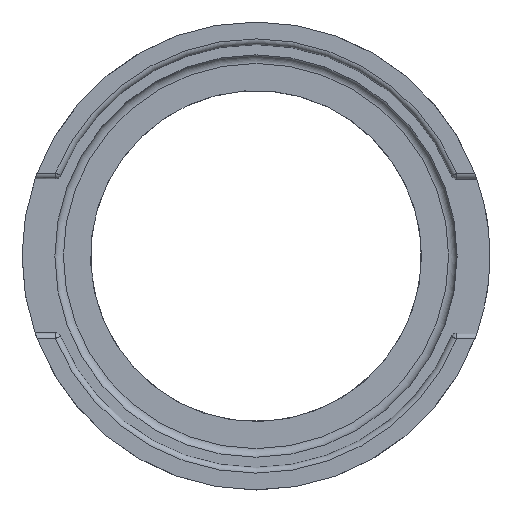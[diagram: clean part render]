
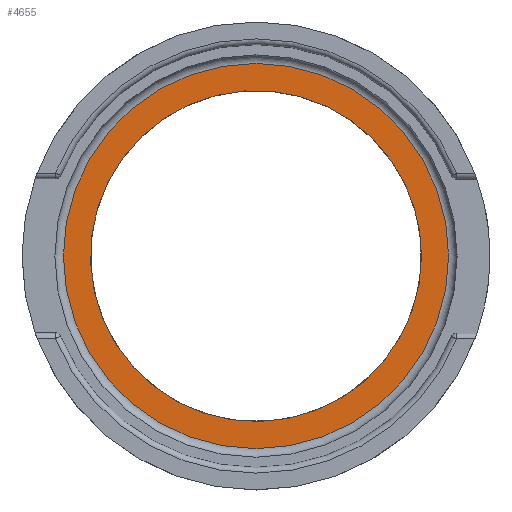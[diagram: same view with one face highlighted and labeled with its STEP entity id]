
A CAD part, top view. The second image highlights one B-rep face of the part: STEP entity #4655.
In plain terms, the highlighted planar face has unit normal (0, 0, 1).
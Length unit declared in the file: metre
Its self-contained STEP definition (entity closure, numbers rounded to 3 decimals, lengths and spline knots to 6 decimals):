
#654=CIRCLE('',#5033,0.03375);
#655=CIRCLE('',#5034,0.029);
#1504=ORIENTED_EDGE('',*,*,#2744,.T.);
#1505=ORIENTED_EDGE('',*,*,#2745,.T.);
#2744=EDGE_CURVE('',#3283,#3283,#654,.F.);
#2745=EDGE_CURVE('',#3284,#3284,#655,.T.);
#3283=VERTEX_POINT('',#11649);
#3284=VERTEX_POINT('',#11651);
#3899=EDGE_LOOP('',(#1504));
#3900=EDGE_LOOP('',(#1505));
#4213=FACE_BOUND('',#3899,.T.);
#4214=FACE_BOUND('',#3900,.T.);
#4416=PLANE('',#5032);
#4655=ADVANCED_FACE('',(#4213,#4214),#4416,.F.);
#5032=AXIS2_PLACEMENT_3D('',#11647,#5621,#5622);
#5033=AXIS2_PLACEMENT_3D('',#11648,#5623,#5624);
#5034=AXIS2_PLACEMENT_3D('',#11650,#5625,#5626);
#5621=DIRECTION('',(0.,0.,-1.));
#5622=DIRECTION('',(0.819,0.574,0.));
#5623=DIRECTION('',(0.,0.,-1.));
#5624=DIRECTION('',(1.,0.,0.));
#5625=DIRECTION('',(0.,0.,-1.));
#5626=DIRECTION('',(1.,0.,0.));
#11647=CARTESIAN_POINT('',(0.,0.,0.0728));
#11648=CARTESIAN_POINT('',(0.,0.,0.0728));
#11649=CARTESIAN_POINT('',(0.03375,0.,0.0728));
#11650=CARTESIAN_POINT('',(0.,0.,0.0728));
#11651=CARTESIAN_POINT('',(0.029,0.,0.0728));
